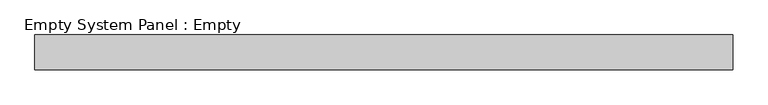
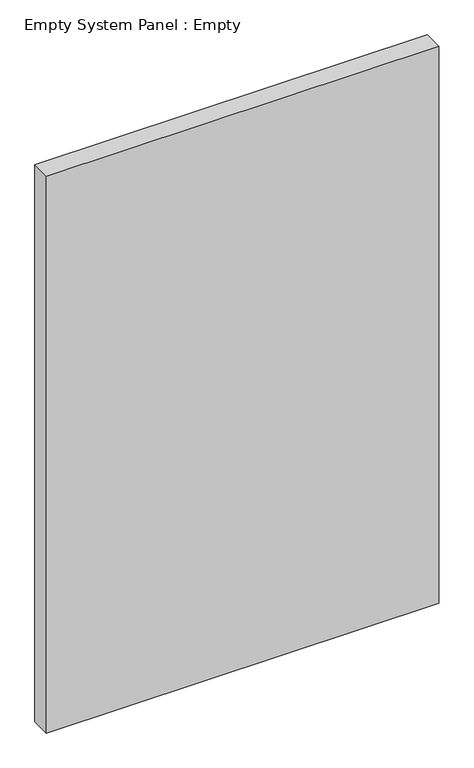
"""IFC4 building model written with IfcOpenShell, lengths in millimetres: plate geometry, Empty System Panel : Empty."""

from ifc_helpers import new_model, si_unit, origin, origin_with_axes, place, context, project, spatial, polyline, outline, extrude, source, transform, mapped, element, save


def empty_system_panel_empty_90a97279(model_context):
    return source(origin(), model_context, "Body", "SweptSolid", [
        extrude(outline(polyline([(1000.0, -150.0), (-1000.0, -150.0), (-1000.0, -50.0), (1000.0, -50.0), (1000.0, -150.0)])), origin_with_axes(), (0.0, 0.0, 1.0), 3000.0),
    ])


if __name__ == "__main__":
    model = new_model("IFC4")
    model_context = context("Model", 3, world=origin())
    ifc_project = project(units=[si_unit("LENGTHUNIT", "METRE", prefix="MILLI")], contexts=[model_context])
    site = spatial("IfcSite", under=ifc_project)
    building = spatial("IfcBuilding", under=site)
    placement = place(None, origin())
    empty_system_panel_empty_shape = empty_system_panel_empty_90a97279(model_context)
    element("IfcPlate", 1, ObjectType="Empty System Panel : Empty", at=placement, inside=building, context=model_context, shape_type="MappedRepresentation", body=[
        mapped(empty_system_panel_empty_shape, transform((0.0, 0.0, 0.0), x_axis=(1.0, 0.0, 0.0), y_axis=(0.0, 1.0, 0.0), z_axis=(0.0, 0.0, 1.0))),
    ])
    save(model, "model.ifc")
